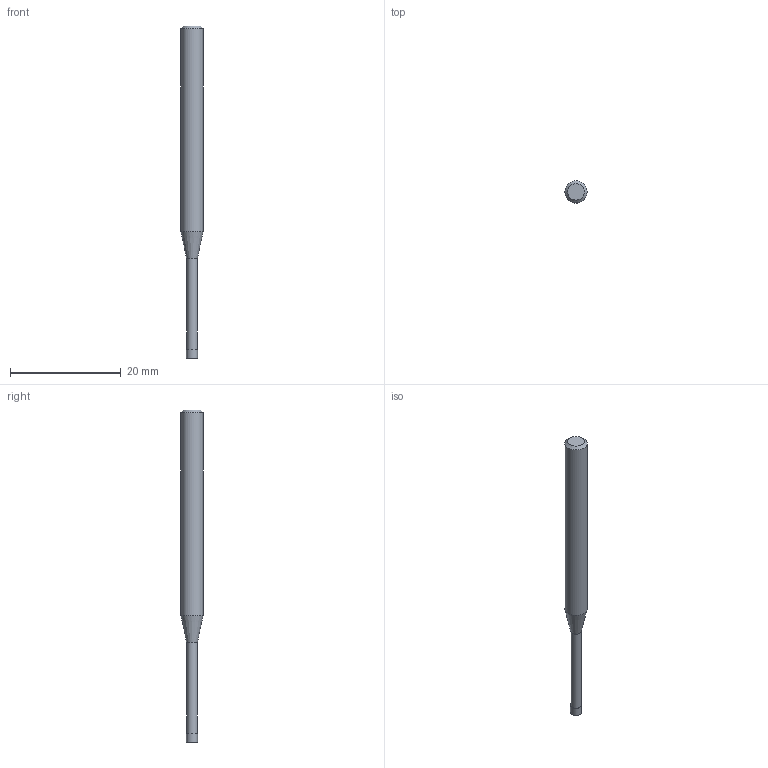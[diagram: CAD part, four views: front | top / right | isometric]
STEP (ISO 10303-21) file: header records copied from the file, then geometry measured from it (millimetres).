
FILE_DESCRIPTION((''),'2;1');
FILE_NAME('C:\Users\nsx150\AppData\Local\Temp\Mastercam 2021\RJ5U8K7RMU\TEMP.step','2021-04-21T16:42:15',(''),(''),'STEP Write','Mastercam 2021 ... CNC Software, Inc.','');
FILE_SCHEMA(('AUTOMOTIVE_DESIGN'));
Length unit declared in the file: millimetre
Products named in the file (1): None
Bounding box: 4 x 4 x 60 mm (x, y, z)
Volume: 553.9 mm3; surface area: 640.9 mm2
Topology: 2 solids, 2 shells, 9 faces, 12 edges, 7 vertices
Faces by surface type: plane 4, cylinder 3, cone 2
Full cylindrical faces by diameter (mm): 1.94 x1, 2 x1, 4 x1
Entity records: 211 total; most frequent: DIRECTION 36, CARTESIAN_POINT 25, AXIS2_PLACEMENT_3D 18, ORIENTED_EDGE 14, EDGE_LOOP 14, STYLED_ITEM 12, ADVANCED_FACE 9, FACE_BOUND 8
